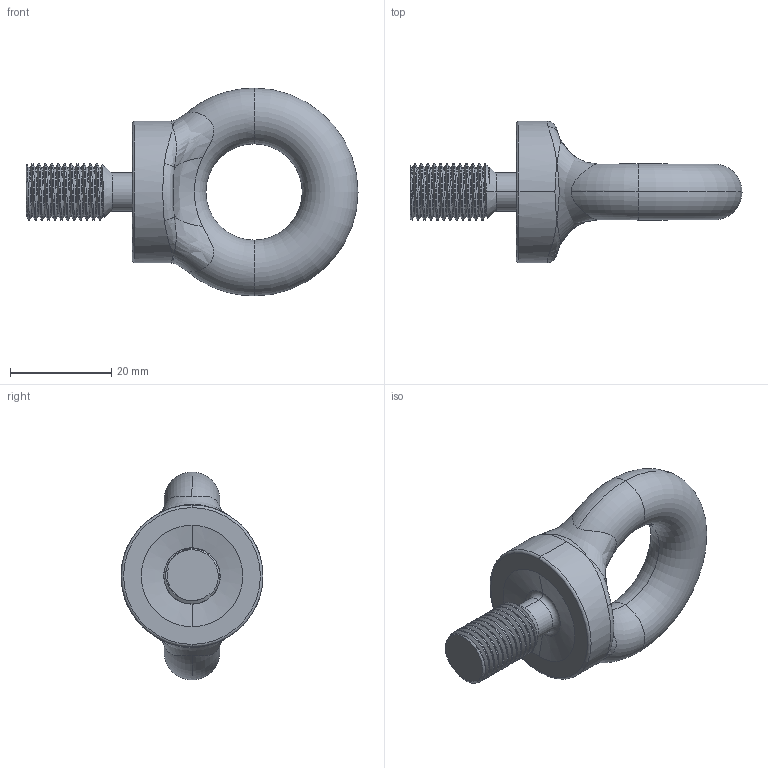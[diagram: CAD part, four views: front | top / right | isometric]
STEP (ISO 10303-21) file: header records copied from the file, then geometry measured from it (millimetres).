
FILE_DESCRIPTION (( 'STEP AP203' ), '1' );
FILE_NAME ('EBUNF437.STEP', '2014-03-14T03:07:22', ( '' ), ( '' ), 'SwSTEP 2.0', 'SolidWorks 2012', '' );
FILE_SCHEMA (( 'CONFIG_CONTROL_DESIGN' ));
Length unit declared in the file: millimetre
Products named in the file (1): EBUNF437
Bounding box: 65.5 x 28 x 41 mm (x, y, z)
Volume: 15335 mm3; surface area: 5460.4 mm2
Topology: 1 solids, 1 shells, 61 faces, 167 edges, 99 vertices
Faces by surface type: cylinder 28, bspline 15, torus 11, cone 4, plane 3
Entity records: 5418 total; most frequent: CARTESIAN_POINT 4090, ORIENTED_EDGE 318, DIRECTION 209, EDGE_CURVE 159, VERTEX_POINT 99, AXIS2_PLACEMENT_3D 88, EDGE_LOOP 62, FACE_OUTER_BOUND 61
